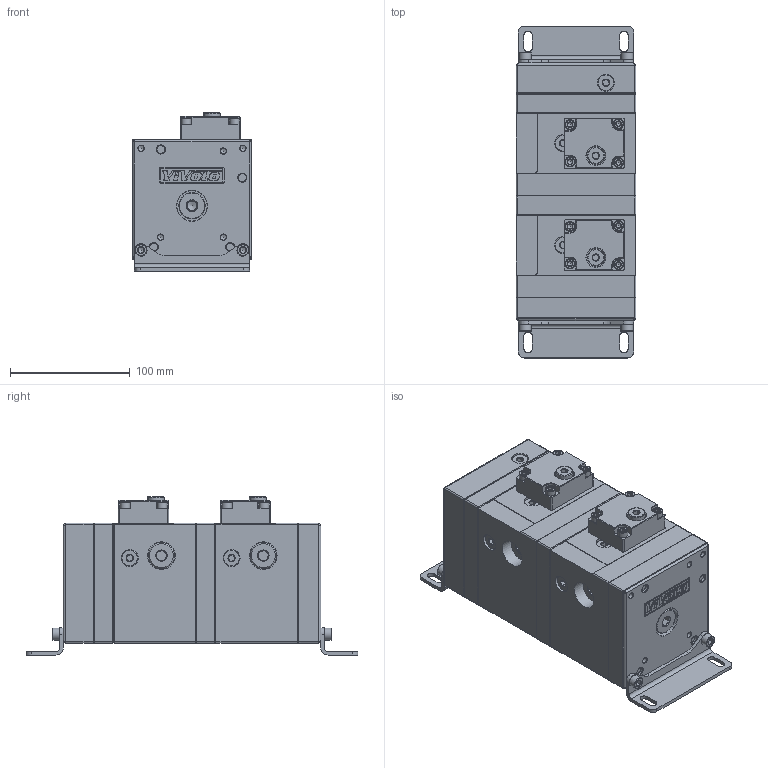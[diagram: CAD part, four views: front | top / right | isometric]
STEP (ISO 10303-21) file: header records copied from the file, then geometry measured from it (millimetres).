
FILE_DESCRIPTION(/* description */ ('Unknown'),/* implementation_level */ '2;1');
FILE_NAME(/* name */ 'MVA0225',/* time_stamp */ '2017-07-10T10:00:06+02:00',/* author */ ('Unknown'),/* organization */ ('Unknown'),/* preprocessor_version */ 'ST-DEVELOPER v16.7',/* originating_system */ 'DEX',/* authorisation */ $);
FILE_SCHEMA (('AUTOMOTIVE_DESIGN {1 0 10303 214 3 1 1}'));
Length unit declared in the file: millimetre
Products named in the file (1): MVA0225
Bounding box: 100 x 277 x 132 mm (x, y, z)
Volume: 2192519.7 mm3; surface area: 157340.5 mm2
Topology: 1 solids, 27 shells, 1297 faces, 3197 edges, 2043 vertices
Faces by surface type: plane 818, cylinder 249, cone 126, bspline 84, torus 20
Full cylindrical faces by diameter (mm): 4 x2, 4.134 x16, 4.917 x14, 6.5 x8, 6.647 x4, 8 x1, 8.5 x8, 10 x4, 13 x4, 13.5 x4, 14 x7, 14.2 x5, 14.95 x8, 15 x2, 15.5 x2, 22 x3, 23 x2, 24.117 x4, 25 x4, 25.4 x1
Entity records: 52894 total; most frequent: CARTESIAN_POINT 15453, ORIENTED_EDGE 5674, DIRECTION 5543, EDGE_CURVE 2837, AXIS2_PLACEMENT_3D 1968, VERTEX_POINT 1932, FACE_BOUND 1659, EDGE_LOOP 1621
